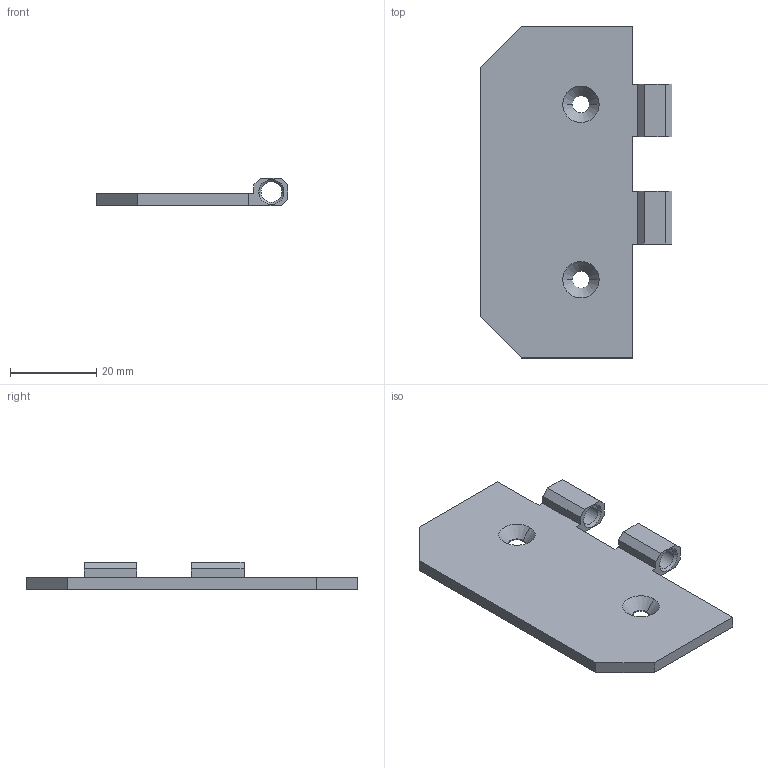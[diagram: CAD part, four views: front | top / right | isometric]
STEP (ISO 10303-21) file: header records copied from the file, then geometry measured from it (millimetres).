
FILE_DESCRIPTION((''),'2;1');
FILE_NAME('2450-361','2018-04-25T',('jpeters'),('Keithley Instruments'),'CREO PARAMETRIC BY PTC INC, 2016050','CREO PARAMETRIC BY PTC INC, 2016050','');
FILE_SCHEMA(('CONFIG_CONTROL_DESIGN'));
Length unit declared in the file: inch
Products named in the file (1): 2450-361
Bounding box: 44.45 x 76.96 x 6.35 mm (x, y, z)
Volume: 7941.2 mm3; surface area: 6883.4 mm2
Topology: 1 solids, 1 shells, 46 faces, 120 edges, 76 vertices
Faces by surface type: plane 26, cone 12, cylinder 8
Entity records: 1452 total; most frequent: CARTESIAN_POINT 242, DIRECTION 240, ORIENTED_EDGE 240, EDGE_CURVE 120, VECTOR 92, LINE 92, VERTEX_POINT 76, AXIS2_PLACEMENT_3D 74
